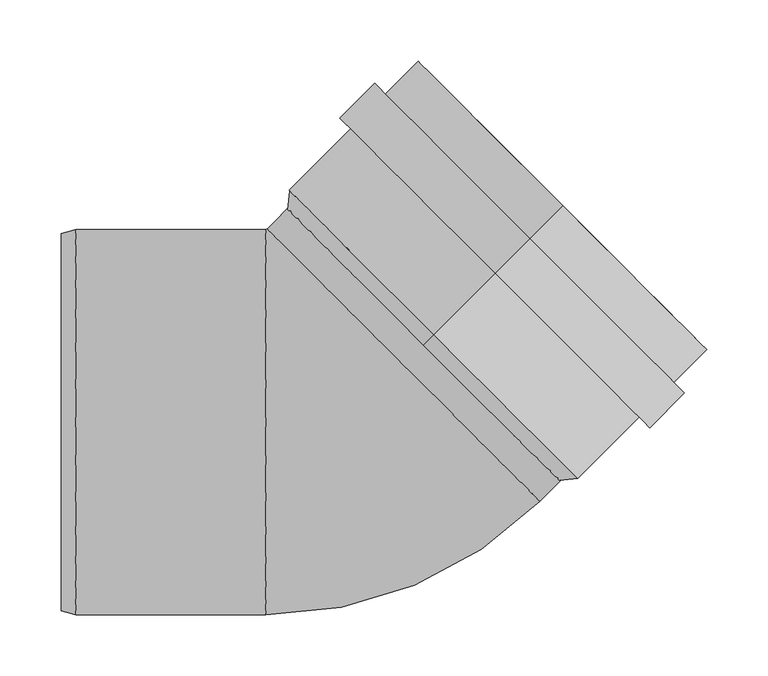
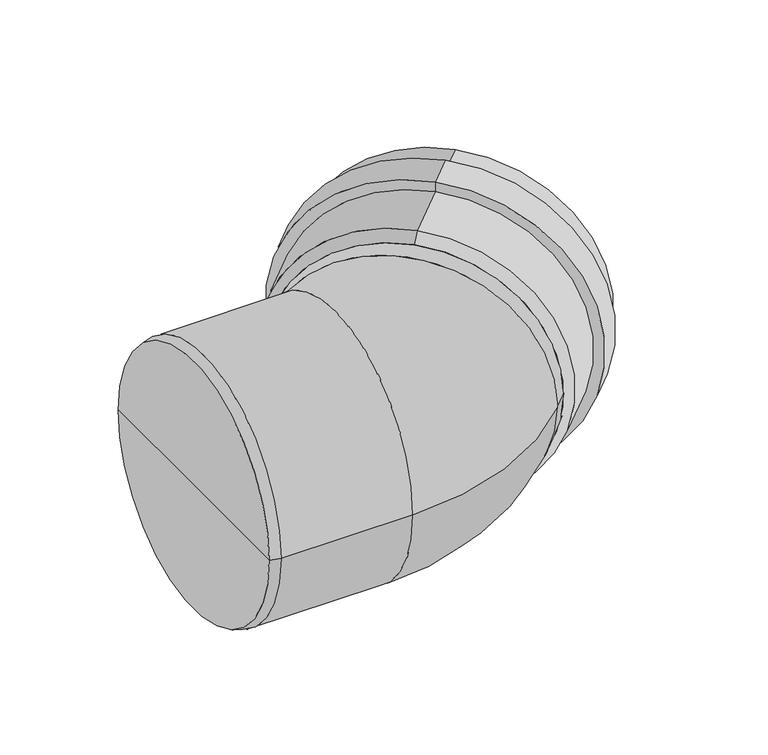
"""IFC4 building model written with IfcOpenShell, lengths in millimetres: pipe fitting geometry, OSMA_KG2000_PPKGB : Koleno 45°."""

from ifc_helpers import new_model, si_unit, point, frame, origin, place, context, project, spatial, polyline, circle_curve, ellipse_curve, trimmed, source, transform, mapped, element, save
from ifc_brep_helpers import plane_surface, cylinder_surface, revolved_surface, advanced_brep


def pipe_fitting_11e0d1c7(model_context):
    return source(origin(), model_context, "Body", "AdvancedBrep", [
        advanced_brep(
        [(71.4177849, 71.4177849, 157.5), (71.4177849, 71.4177849, -157.5), (176.7766953, 176.7766953, -157.5), (176.7766953, 176.7766953, 157.5), (121.6223664, 121.6223664, 167.2), (121.6223664, 121.6223664, -167.2), (71.4177849, 71.4177849, -167.2), (71.4177849, 71.4177849, 167.2), (121.6223664, 121.6223664, 179.5), (121.6223664, 121.6223664, -179.5), (149.9066376, 149.9066376, 179.5), (149.9066376, 149.9066376, -179.5), (149.9066376, 149.9066376, 167.2), (149.9066376, 149.9066376, -167.2), (176.7766953, 176.7766953, 167.2), (176.7766953, 176.7766953, -167.2), (62.9325035, 62.9325035, 147.8), (62.9325035, 62.9325035, -147.8), (62.9325035, 62.9325035, 157.5), (62.9325035, 62.9325035, -157.5)],
        [
            (0, 1, circle_curve(frame((71.4177849, 71.4177849, 0.0), z_axis=(-0.7071067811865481, -0.7071067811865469, 0.0), x_axis=(0.0, 0.0, -1.0)), 157.5)),
            (1, 2),
            (2, 3, circle_curve(frame((176.7766953, 176.7766953, 0.0), z_axis=(0.7071067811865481, 0.7071067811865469, 0.0), x_axis=(0.0, 0.0, -1.0)), 157.5)),
            (3, 0),
            (1, 0, circle_curve(frame((71.4177849, 71.4177849, 0.0), z_axis=(-0.7071067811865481, -0.7071067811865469, 0.0), x_axis=(0.0, 0.0, -1.0)), 157.5)),
            (3, 2, circle_curve(frame((176.7766953, 176.7766953, 0.0), z_axis=(0.7071067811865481, 0.7071067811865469, 0.0), x_axis=(0.0, 0.0, -1.0)), 157.5)),
            (4, 5, circle_curve(frame((121.6223664, 121.6223664, 0.0), z_axis=(-0.7071067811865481, -0.7071067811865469, 0.0), x_axis=(0.0, 0.0, -1.0)), 167.2)),
            (5, 6),
            (6, 7, circle_curve(frame((71.4177849, 71.4177849, 0.0), z_axis=(0.7071067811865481, 0.7071067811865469, 0.0), x_axis=(0.0, 0.0, -1.0)), 167.2)),
            (7, 4),
            (5, 4, circle_curve(frame((121.6223664, 121.6223664, 0.0), z_axis=(-0.7071067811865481, -0.7071067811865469, 0.0), x_axis=(0.0, 0.0, -1.0)), 167.2)),
            (7, 6, circle_curve(frame((71.4177849, 71.4177849, 0.0), z_axis=(0.7071067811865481, 0.7071067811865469, 0.0), x_axis=(0.0, 0.0, -1.0)), 167.2)),
            (8, 9, circle_curve(frame((121.6223664, 121.6223664, 0.0), z_axis=(-0.7071067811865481, -0.7071067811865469, 0.0), x_axis=(0.0, 0.0, -1.0)), 179.5)),
            (9, 5),
            (4, 8),
            (9, 8, circle_curve(frame((121.6223664, 121.6223664, 0.0), z_axis=(-0.7071067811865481, -0.7071067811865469, 0.0), x_axis=(0.0, 0.0, -1.0)), 179.5)),
            (10, 11, circle_curve(frame((149.9066376, 149.9066376, 0.0), z_axis=(-0.7071067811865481, -0.7071067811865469, 0.0), x_axis=(0.0, 0.0, -1.0)), 179.5)),
            (11, 9),
            (8, 10),
            (11, 10, circle_curve(frame((149.9066376, 149.9066376, 0.0), z_axis=(-0.7071067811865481, -0.7071067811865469, 0.0), x_axis=(0.0, 0.0, -1.0)), 179.5)),
            (12, 13, circle_curve(frame((149.9066376, 149.9066376, 0.0), z_axis=(-0.7071067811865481, -0.7071067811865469, 0.0), x_axis=(0.0, 0.0, -1.0)), 167.2)),
            (13, 11),
            (10, 12),
            (13, 12, circle_curve(frame((149.9066376, 149.9066376, 0.0), z_axis=(-0.7071067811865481, -0.7071067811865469, 0.0), x_axis=(0.0, 0.0, -1.0)), 167.2)),
            (14, 15, circle_curve(frame((176.7766953, 176.7766953, 0.0), z_axis=(-0.7071067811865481, -0.7071067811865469, 0.0), x_axis=(0.0, 0.0, -1.0)), 167.2)),
            (15, 13),
            (12, 14),
            (15, 14, circle_curve(frame((176.7766953, 176.7766953, 0.0), z_axis=(-0.7071067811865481, -0.7071067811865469, 0.0), x_axis=(0.0, 0.0, -1.0)), 167.2)),
            (2, 15),
            (14, 3),
            (16, 17, circle_curve(frame((62.9325035, 62.9325035, 0.0), z_axis=(-0.7071067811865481, -0.7071067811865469, 0.0), x_axis=(0.0, 0.0, -1.0)), 147.8)),
            (17, 1),
            (0, 16),
            (17, 16, circle_curve(frame((62.9325035, 62.9325035, 0.0), z_axis=(-0.7071067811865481, -0.7071067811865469, 0.0), x_axis=(0.0, 0.0, -1.0)), 147.8)),
            (18, 19, circle_curve(frame((62.9325035, 62.9325035, 0.0), z_axis=(-0.7071067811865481, -0.7071067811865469, 0.0), x_axis=(0.0, 0.0, -1.0)), 157.5)),
            (19, 17),
            (16, 18),
            (19, 18, circle_curve(frame((62.9325035, 62.9325035, 0.0), z_axis=(-0.7071067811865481, -0.7071067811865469, 0.0), x_axis=(0.0, 0.0, -1.0)), 157.5)),
            (6, 19),
            (18, 7),
        ],
        [
            revolved_surface(polyline([(176.77669529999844, 176.77669530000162, -157.5), (71.41778489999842, 71.41778490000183, -157.5)]), (2064.3800183, 2064.3800183, 0.0), (0.7071067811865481, 0.7071067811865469, 0.0)),
            cylinder_surface(frame((2064.3800183, 2064.3800183, 0.0), z_axis=(0.7071067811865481, 0.7071067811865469, 0.0), x_axis=(0.0, 0.0, -1.0)), 167.2),
            plane_surface(frame((121.6223664, 121.6223664, 0.0), z_axis=(-0.7071067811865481, -0.7071067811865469, 0.0), x_axis=(0.0, 0.0, -1.0))),
            cylinder_surface(frame((2064.3800183, 2064.3800183, 0.0), z_axis=(0.7071067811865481, 0.7071067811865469, 0.0), x_axis=(0.0, 0.0, -1.0)), 179.5),
            plane_surface(frame((149.9066376, 149.9066376, 0.0), z_axis=(0.7071067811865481, 0.7071067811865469, 0.0), x_axis=(0.0, 0.0, -1.0))),
            plane_surface(frame((176.7766953, 176.7766953, 0.0), z_axis=(0.7071067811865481, 0.7071067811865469, 0.0), x_axis=(0.0, 0.0, -1.0))),
            revolved_surface(polyline([(71.4177849, 71.4177849, -157.5), (62.9325035, 62.9325035, -147.8)]), (2064.3800183, 2064.3800183, 0.0), (0.7071067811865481, 0.7071067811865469, 0.0)),
            plane_surface(frame((62.9325035, 62.9325035, 0.0), z_axis=(-0.7071067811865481, -0.7071067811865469, 0.0), x_axis=(0.0, 0.0, -1.0))),
            revolved_surface(polyline([(62.9325035, 62.9325035, -157.5), (71.4177849, 71.4177849, -167.2)]), (2064.3800183, 2064.3800183, 0.0), (0.7071067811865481, 0.7071067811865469, 0.0)),
        ],
        [
            (0, [[1, 2, 3, 4]]),
            (0, [[5, -4, 6, -2]]),
            (1, [[7, 8, 9, 10]]),
            (1, [[11, -10, 12, -8]]),
            (2, [[13, 14, -7, 15]]),
            (2, [[16, -15, -11, -14]]),
            (3, [[17, 18, -13, 19]]),
            (3, [[20, -19, -16, -18]]),
            (4, [[21, 22, -17, 23]]),
            (4, [[24, -23, -20, -22]]),
            (1, [[25, 26, -21, 27]]),
            (1, [[28, -27, -24, -26]]),
            (5, [[-3, 29, -25, 30]]),
            (5, [[-6, -30, -28, -29]]),
            (6, [[31, 32, -1, 33]]),
            (6, [[34, -33, -5, -32]]),
            (7, [[35, 36, -31, 37]]),
            (7, [[38, -37, -34, -36]]),
            (8, [[-9, 39, -35, 40]]),
            (8, [[-12, -40, -38, -39]]),
        ],
    ),
        advanced_brep(
        [(-64.7992962, 157.9393398, 0.0), (-65.8599564, 157.5, 0.0), (-65.8599564, -157.5, 0.0), (157.9393398, -64.7992962, 0.0), (46.5700218, 46.5700218, 157.5), (46.5700218, 46.5700218, -157.5), (-233.0, 0.0, 0.0), (-233.0, 154.2846096, 0.0), (-233.0, -154.2846096, 0.0), (-221.0, 157.5, 0.0), (-221.0, -157.5, 0.0), (180.6657826, -42.0728535, 0.0), (-42.0728535, 180.6657826, 0.0)],
        [
            (0, 1, circle_curve(frame((-65.8599564, 159.0, 0.0), z_axis=(0.0, 0.0, -1.0), x_axis=(0.0, -1.0, 0.0)), 1.5)),
            (1, 2, circle_curve(frame((-65.8599564, 0.0, 0.0), z_axis=(1.0, 0.0, 0.0), x_axis=(0.0, 1.0, 0.0)), 157.5)),
            (2, 3, circle_curve(frame((-65.8599564, 159.0, 0.0), z_axis=(0.0, 0.0, 1.0), x_axis=(0.0, -1.0, 0.0)), 316.5)),
            (3, 4, circle_curve(frame((46.5700218, 46.5700218, 0.0), z_axis=(-0.7071067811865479, -0.7071067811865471, 0.0), x_axis=(-0.7071067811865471, 0.7071067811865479, 0.0)), 157.5)),
            (4, 0, circle_curve(frame((46.5700218, 46.5700218, 0.0), z_axis=(-0.7071067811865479, -0.7071067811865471, 0.0), x_axis=(-0.7071067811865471, 0.7071067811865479, 0.0)), 157.5)),
            (0, 5, circle_curve(frame((46.5700218, 46.5700218, 0.0), z_axis=(-0.7071067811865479, -0.7071067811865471, 0.0), x_axis=(-0.7071067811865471, 0.7071067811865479, 0.0)), 157.5)),
            (5, 3, circle_curve(frame((46.5700218, 46.5700218, 0.0), z_axis=(-0.707106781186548, -0.707106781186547, 0.0), x_axis=(-0.707106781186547, 0.707106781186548, 0.0)), 157.5)),
            (2, 1, circle_curve(frame((-65.8599564, 0.0, 0.0), z_axis=(1.0, 0.0, 0.0), x_axis=(0.0, 1.0, 0.0)), 157.5)),
            (6, 7),
            (7, 8, circle_curve(frame((-233.0, 0.0, 0.0), z_axis=(-1.0, 0.0, 0.0), x_axis=(0.0, 1.0, 0.0)), 154.2846096)),
            (8, 6),
            (8, 7, circle_curve(frame((-233.0, 0.0, 0.0), z_axis=(-1.0, 0.0, 0.0), x_axis=(0.0, 1.0, 0.0)), 154.2846096)),
            (7, 9),
            (9, 10, circle_curve(frame((-221.0, 0.0, 0.0), z_axis=(-1.0, 0.0, 0.0), x_axis=(0.0, 1.0, 0.0)), 157.5)),
            (10, 8),
            (10, 9, circle_curve(frame((-221.0, 0.0, 0.0), z_axis=(-1.0, 0.0, 0.0), x_axis=(0.0, 1.0, 0.0)), 157.5)),
            (9, 1),
            (2, 10),
            (11, 12, circle_curve(frame((69.2964646, 69.2964646, 0.0), z_axis=(0.7071067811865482, 0.707106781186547, 0.0), x_axis=(-0.707106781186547, 0.7071067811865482, 0.0)), 157.5)),
            (12, 11, circle_curve(frame((69.2964646, 69.2964646, 0.0), z_axis=(0.7071067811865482, 0.707106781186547, 0.0), x_axis=(-0.707106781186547, 0.7071067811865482, 0.0)), 157.5)),
            (12, 0),
            (3, 11),
        ],
        [
            revolved_surface(trimmed(ellipse_curve(frame((-65.8599564, 0.0, 0.0), z_axis=(-1.0, 0.0, 0.0), x_axis=(0.0, 1.0, 0.0)), 157.5, 157.5), [point((-65.8599564, -157.5, 0.0))], [point((-65.8599564, 157.5, 0.0))], True, "CARTESIAN"), (-65.8599564, 159.0, 0.0), (0.0, 0.0, 1.0)),
            revolved_surface(trimmed(ellipse_curve(frame((-65.8599564, 0.0, 0.0), z_axis=(-1.0, 0.0, 0.0), x_axis=(0.0, 1.0, 0.0)), 157.5, 157.5), [point((-65.8599564, 157.5, 0.0))], [point((-65.8599564, -157.5, 0.0))], True, "CARTESIAN"), (-65.8599564, 159.0, 0.0), (0.0, 0.0, 1.0)),
            plane_surface(frame((-233.0, 0.0, 0.0), z_axis=(-1.0, 0.0, 0.0), x_axis=(0.0, 1.0, 0.0))),
            revolved_surface(polyline([(-221.0, 157.5, 0.0), (-233.0, 154.2846096, 0.0)]), (331.0587718, 0.0, 0.0), (-1.0, 0.0, 0.0)),
            cylinder_surface(frame((331.0587718, 0.0, 0.0), z_axis=(-1.0, 0.0, 0.0), x_axis=(0.0, 1.0, 0.0)), 157.5),
            plane_surface(frame((69.2964646, 69.2964646, 0.0), z_axis=(0.7071067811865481, 0.7071067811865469, 0.0), x_axis=(0.0, 0.0, 1.0))),
            cylinder_surface(frame((46.5700218, 46.5700218, 0.0), z_axis=(-0.7071067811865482, -0.707106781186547, 0.0), x_axis=(-0.707106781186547, 0.7071067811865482, 0.0)), 157.5),
        ],
        [
            (0, [[1, 2, 3, 4, 5]]),
            (1, [[-1, 6, 7, -3, 8]]),
            (2, [[9, 10, 11]]),
            (2, [[-9, -11, 12]]),
            (3, [[-10, 13, 14, 15]]),
            (3, [[-12, -15, 16, -13]]),
            (4, [[-14, 17, -8, 18]]),
            (4, [[-16, -18, -2, -17]]),
            (5, [[19, 20]]),
            (6, [[-20, 21, -5, -4, 22]]),
            (6, [[-19, -22, -7, -6, -21]]),
        ],
    ),
    ])


if __name__ == "__main__":
    model = new_model("IFC4")
    model_context = context("Model", 3, world=origin())
    ifc_project = project(units=[si_unit("LENGTHUNIT", "METRE", prefix="MILLI")], contexts=[model_context])
    site = spatial("IfcSite", under=ifc_project)
    building = spatial("IfcBuilding", under=site)
    placement = place(None, origin())
    pipe_fitting_shape = pipe_fitting_11e0d1c7(model_context)
    element("IfcPipeFitting", 1, ObjectType="OSMA_KG2000_PPKGB : Koleno 45°", at=placement, inside=building, context=model_context, shape_type="MappedRepresentation", body=[
        mapped(pipe_fitting_shape, transform((0.0, 0.0, 0.0), x_axis=(1.0, 0.0, 0.0), y_axis=(0.0, 1.0, 0.0), z_axis=(0.0, 0.0, 1.0))),
    ])
    save(model, "model.ifc")
